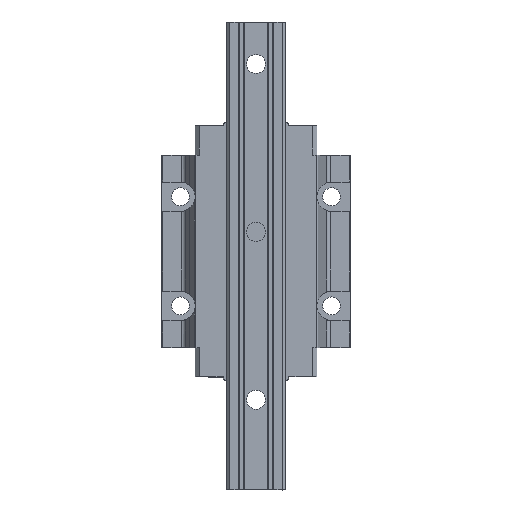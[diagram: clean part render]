
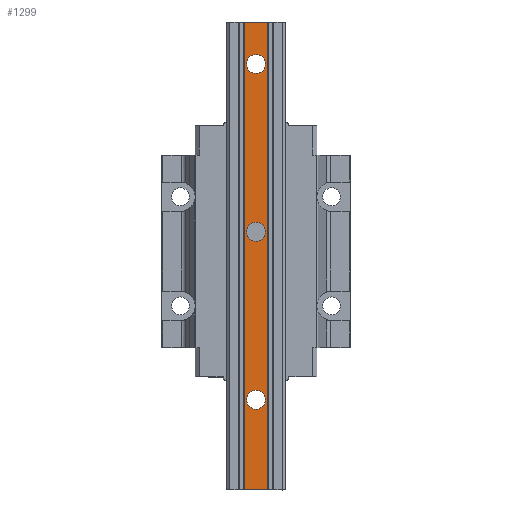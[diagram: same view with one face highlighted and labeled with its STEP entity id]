
A CAD part, front view. The second image highlights one B-rep face of the part: STEP entity #1299.
In plain terms, the highlighted planar face has unit normal (0, -1, 0).
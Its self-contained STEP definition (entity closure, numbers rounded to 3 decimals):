
#1299=ADVANCED_FACE('',(#3571,#3572,#3573,#3574),#1804,.F.);
#1804=PLANE('',#9692);
#2045=LINE('',#12641,#2753);
#2058=LINE('',#12674,#2766);
#2107=LINE('',#12806,#2815);
#2108=LINE('',#12820,#2816);
#2753=VECTOR('',#10403,1.);
#2766=VECTOR('',#10424,1.);
#2815=VECTOR('',#10557,1.);
#2816=VECTOR('',#10576,1.);
#3571=FACE_BOUND('',#3781,.T.);
#3572=FACE_BOUND('',#3782,.T.);
#3573=FACE_BOUND('',#3783,.T.);
#3574=FACE_BOUND('',#3784,.T.);
#3781=EDGE_LOOP('',(#4576,#4577,#4578,#4579));
#3782=EDGE_LOOP('',(#4580));
#3783=EDGE_LOOP('',(#4581));
#3784=EDGE_LOOP('',(#4582));
#4576=ORIENTED_EDGE('',*,*,#8038,.T.);
#4577=ORIENTED_EDGE('',*,*,#8116,.F.);
#4578=ORIENTED_EDGE('',*,*,#8022,.F.);
#4579=ORIENTED_EDGE('',*,*,#8111,.T.);
#4580=ORIENTED_EDGE('',*,*,#8117,.F.);
#4581=ORIENTED_EDGE('',*,*,#8113,.T.);
#4582=ORIENTED_EDGE('',*,*,#8115,.T.);
#7100=VERTEX_POINT('',#12640);
#7101=VERTEX_POINT('',#12642);
#7116=VERTEX_POINT('',#12673);
#7117=VERTEX_POINT('',#12675);
#7159=VERTEX_POINT('',#12812);
#7161=VERTEX_POINT('',#12818);
#7162=VERTEX_POINT('',#12822);
#8022=EDGE_CURVE('',#7100,#7101,#2045,.T.);
#8038=EDGE_CURVE('',#7117,#7116,#2058,.T.);
#8111=EDGE_CURVE('',#7100,#7117,#2107,.T.);
#8113=EDGE_CURVE('',#7159,#7159,#9357,.T.);
#8115=EDGE_CURVE('',#7161,#7161,#9359,.T.);
#8116=EDGE_CURVE('',#7101,#7116,#2108,.T.);
#8117=EDGE_CURVE('',#7162,#7162,#9360,.T.);
#9357=CIRCLE('',#9685,4.5);
#9359=CIRCLE('',#9689,4.5);
#9360=CIRCLE('',#9691,4.5);
#9685=AXIS2_PLACEMENT_3D('',#12811,#10564,#10565);
#9689=AXIS2_PLACEMENT_3D('',#12817,#10572,#10573);
#9691=AXIS2_PLACEMENT_3D('',#12821,#10577,#10578);
#9692=AXIS2_PLACEMENT_3D('',#12823,#10579,#10580);
#10403=DIRECTION('',(-1.,0.,0.));
#10424=DIRECTION('',(-1.,0.,0.));
#10557=DIRECTION('',(0.,0.,1.));
#10564=DIRECTION('',(0.,1.,0.));
#10565=DIRECTION('',(0.,0.,1.));
#10572=DIRECTION('',(0.,1.,0.));
#10573=DIRECTION('',(0.,0.,-1.));
#10576=DIRECTION('',(0.,0.,1.));
#10577=DIRECTION('',(0.,-1.,0.));
#10578=DIRECTION('',(0.,0.,-1.));
#10579=DIRECTION('',(0.,1.,0.));
#10580=DIRECTION('',(0.,0.,1.));
#12640=CARTESIAN_POINT('',(-3.91,-19.975,77.));
#12641=CARTESIAN_POINT('',(-22.311,-19.975,77.));
#12642=CARTESIAN_POINT('',(-14.909,-19.975,77.));
#12673=CARTESIAN_POINT('',(-14.909,-19.975,300.));
#12674=CARTESIAN_POINT('',(-22.311,-19.975,300.));
#12675=CARTESIAN_POINT('',(-3.91,-19.975,300.));
#12806=CARTESIAN_POINT('',(-3.91,-19.975,80.));
#12811=CARTESIAN_POINT('',(-9.41,-19.975,120.));
#12812=CARTESIAN_POINT('',(-9.41,-19.975,124.5));
#12817=CARTESIAN_POINT('',(-9.41,-19.975,200.));
#12818=CARTESIAN_POINT('',(-9.41,-19.975,195.5));
#12820=CARTESIAN_POINT('',(-14.909,-19.975,80.));
#12821=CARTESIAN_POINT('',(-9.41,-19.975,280.));
#12822=CARTESIAN_POINT('',(-9.41,-19.975,275.5));
#12823=CARTESIAN_POINT('',(-3.91,-19.975,80.));
